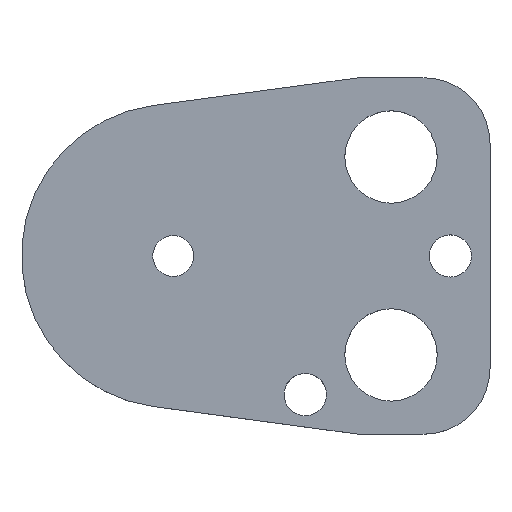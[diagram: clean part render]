
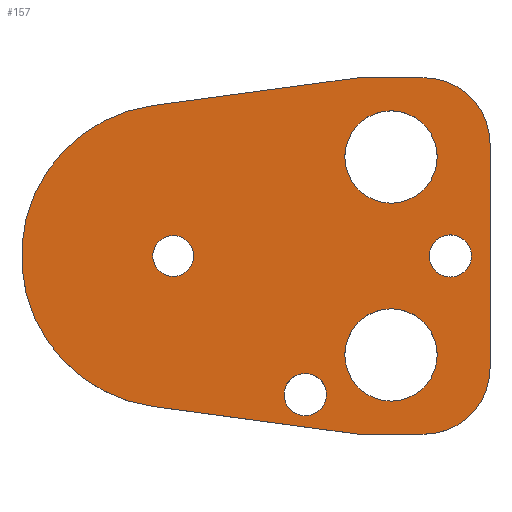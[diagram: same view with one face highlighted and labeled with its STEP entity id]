
A CAD part, top view. The second image highlights one B-rep face of the part: STEP entity #157.
In plain terms, the highlighted planar face has unit normal (0, 0, 1).
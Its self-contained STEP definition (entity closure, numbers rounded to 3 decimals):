
#103=FACE_BOUND('',#207,.T.);
#104=FACE_BOUND('',#208,.T.);
#105=FACE_BOUND('',#209,.T.);
#106=FACE_BOUND('',#210,.T.);
#107=FACE_BOUND('',#211,.T.);
#108=FACE_BOUND('',#212,.T.);
#122=CIRCLE('',#480,10.);
#124=CIRCLE('',#484,10.);
#127=CIRCLE('',#490,23.);
#138=CIRCLE('',#503,3.2);
#139=CIRCLE('',#504,3.2);
#140=CIRCLE('',#505,7.);
#141=CIRCLE('',#506,7.);
#142=CIRCLE('',#507,7.);
#143=CIRCLE('',#508,7.);
#144=CIRCLE('',#509,3.2);
#145=CIRCLE('',#510,3.2);
#146=CIRCLE('',#511,3.1);
#147=CIRCLE('',#512,3.1);
#157=ADVANCED_FACE('',(#103,#104,#105,#106,#107,#108),#174,.T.);
#174=PLANE('',#513);
#207=EDGE_LOOP('',(#273,#274,#275,#276,#277,#278,#279,#280));
#208=EDGE_LOOP('',(#281,#282));
#209=EDGE_LOOP('',(#283,#284));
#210=EDGE_LOOP('',(#285,#286));
#211=EDGE_LOOP('',(#287,#288));
#212=EDGE_LOOP('',(#289,#290));
#273=ORIENTED_EDGE('',*,*,#368,.T.);
#274=ORIENTED_EDGE('',*,*,#372,.T.);
#275=ORIENTED_EDGE('',*,*,#375,.T.);
#276=ORIENTED_EDGE('',*,*,#378,.T.);
#277=ORIENTED_EDGE('',*,*,#381,.T.);
#278=ORIENTED_EDGE('',*,*,#384,.T.);
#279=ORIENTED_EDGE('',*,*,#387,.T.);
#280=ORIENTED_EDGE('',*,*,#390,.T.);
#281=ORIENTED_EDGE('',*,*,#401,.T.);
#282=ORIENTED_EDGE('',*,*,#402,.T.);
#283=ORIENTED_EDGE('',*,*,#403,.T.);
#284=ORIENTED_EDGE('',*,*,#404,.T.);
#285=ORIENTED_EDGE('',*,*,#405,.T.);
#286=ORIENTED_EDGE('',*,*,#406,.T.);
#287=ORIENTED_EDGE('',*,*,#407,.T.);
#288=ORIENTED_EDGE('',*,*,#408,.T.);
#289=ORIENTED_EDGE('',*,*,#409,.T.);
#290=ORIENTED_EDGE('',*,*,#410,.T.);
#332=VERTEX_POINT('',#649);
#333=VERTEX_POINT('',#651);
#336=VERTEX_POINT('',#658);
#338=VERTEX_POINT('',#664);
#340=VERTEX_POINT('',#670);
#342=VERTEX_POINT('',#676);
#344=VERTEX_POINT('',#682);
#346=VERTEX_POINT('',#688);
#357=VERTEX_POINT('',#717);
#358=VERTEX_POINT('',#718);
#359=VERTEX_POINT('',#721);
#360=VERTEX_POINT('',#722);
#361=VERTEX_POINT('',#725);
#362=VERTEX_POINT('',#726);
#363=VERTEX_POINT('',#729);
#364=VERTEX_POINT('',#730);
#365=VERTEX_POINT('',#733);
#366=VERTEX_POINT('',#734);
#368=EDGE_CURVE('',#333,#332,#422,.T.);
#372=EDGE_CURVE('',#332,#336,#426,.T.);
#375=EDGE_CURVE('',#336,#338,#122,.T.);
#378=EDGE_CURVE('',#338,#340,#430,.T.);
#381=EDGE_CURVE('',#340,#342,#124,.T.);
#384=EDGE_CURVE('',#342,#344,#434,.T.);
#387=EDGE_CURVE('',#344,#346,#437,.T.);
#390=EDGE_CURVE('',#346,#333,#127,.T.);
#401=EDGE_CURVE('',#357,#358,#138,.T.);
#402=EDGE_CURVE('',#358,#357,#139,.T.);
#403=EDGE_CURVE('',#359,#360,#140,.T.);
#404=EDGE_CURVE('',#360,#359,#141,.T.);
#405=EDGE_CURVE('',#361,#362,#142,.T.);
#406=EDGE_CURVE('',#362,#361,#143,.T.);
#407=EDGE_CURVE('',#363,#364,#144,.T.);
#408=EDGE_CURVE('',#364,#363,#145,.T.);
#409=EDGE_CURVE('',#365,#366,#146,.T.);
#410=EDGE_CURVE('',#366,#365,#147,.T.);
#422=LINE('',#650,#450);
#426=LINE('',#659,#454);
#430=LINE('',#671,#458);
#434=LINE('',#683,#462);
#437=LINE('',#689,#465);
#450=VECTOR('',#527,1.);
#454=VECTOR('',#533,1.);
#458=VECTOR('',#545,1.);
#462=VECTOR('',#557,1.);
#465=VECTOR('',#562,1.);
#480=AXIS2_PLACEMENT_3D('',#665,#538,#539);
#484=AXIS2_PLACEMENT_3D('',#677,#550,#551);
#490=AXIS2_PLACEMENT_3D('',#693,#568,#569);
#503=AXIS2_PLACEMENT_3D('',#716,#594,#595);
#504=AXIS2_PLACEMENT_3D('',#719,#596,#597);
#505=AXIS2_PLACEMENT_3D('',#720,#598,#599);
#506=AXIS2_PLACEMENT_3D('',#723,#600,#601);
#507=AXIS2_PLACEMENT_3D('',#724,#602,#603);
#508=AXIS2_PLACEMENT_3D('',#727,#604,#605);
#509=AXIS2_PLACEMENT_3D('',#728,#606,#607);
#510=AXIS2_PLACEMENT_3D('',#731,#608,#609);
#511=AXIS2_PLACEMENT_3D('',#732,#610,#611);
#512=AXIS2_PLACEMENT_3D('',#735,#612,#613);
#513=AXIS2_PLACEMENT_3D('',#736,#614,#615);
#527=DIRECTION('',(0.991,-0.134,0.));
#533=DIRECTION('',(1.,0.,0.));
#538=DIRECTION('',(0.,0.,1.));
#539=DIRECTION('',(-0.707,0.707,0.));
#545=DIRECTION('',(0.,1.,0.));
#550=DIRECTION('',(0.,0.,1.));
#551=DIRECTION('',(-0.707,-0.707,0.));
#557=DIRECTION('',(-1.,0.,0.));
#562=DIRECTION('',(-0.991,-0.134,0.));
#568=DIRECTION('',(0.,0.,1.));
#569=DIRECTION('',(1.,0.,0.));
#594=DIRECTION('',(0.,0.,-1.));
#595=DIRECTION('',(-1.,0.,0.));
#596=DIRECTION('',(0.,0.,-1.));
#597=DIRECTION('',(1.,0.,0.));
#598=DIRECTION('',(0.,0.,-1.));
#599=DIRECTION('',(-1.,0.,0.));
#600=DIRECTION('',(0.,0.,-1.));
#601=DIRECTION('',(1.,0.,0.));
#602=DIRECTION('',(0.,0.,-1.));
#603=DIRECTION('',(-1.,0.,0.));
#604=DIRECTION('',(0.,0.,-1.));
#605=DIRECTION('',(1.,0.,0.));
#606=DIRECTION('',(0.,0.,-1.));
#607=DIRECTION('',(-1.,0.,0.));
#608=DIRECTION('',(0.,0.,-1.));
#609=DIRECTION('',(1.,0.,0.));
#610=DIRECTION('',(0.,0.,-1.));
#611=DIRECTION('',(-1.,0.,0.));
#612=DIRECTION('',(0.,0.,-1.));
#613=DIRECTION('',(1.,0.,0.));
#614=DIRECTION('',(0.,0.,1.));
#615=DIRECTION('',(0.991,-0.134,0.));
#649=CARTESIAN_POINT('',(28.,-27.,5.));
#650=CARTESIAN_POINT('',(28.,-27.,5.));
#651=CARTESIAN_POINT('',(-3.085,-22.792,5.));
#658=CARTESIAN_POINT('',(38.,-27.,5.));
#659=CARTESIAN_POINT('',(28.,-27.,5.));
#664=CARTESIAN_POINT('',(48.,-17.,5.));
#665=CARTESIAN_POINT('',(38.,-17.,5.));
#670=CARTESIAN_POINT('',(48.,17.,5.));
#671=CARTESIAN_POINT('',(48.,17.,5.));
#676=CARTESIAN_POINT('',(38.,27.,5.));
#677=CARTESIAN_POINT('',(38.,17.,5.));
#682=CARTESIAN_POINT('',(28.,27.,5.));
#683=CARTESIAN_POINT('',(28.,27.,5.));
#688=CARTESIAN_POINT('',(-3.085,22.792,5.));
#689=CARTESIAN_POINT('',(28.,27.,5.));
#693=CARTESIAN_POINT('',(0.,0.,5.));
#716=CARTESIAN_POINT('',(42.,0.,5.));
#717=CARTESIAN_POINT('',(42.,3.2,5.));
#718=CARTESIAN_POINT('',(42.,-3.2,5.));
#719=CARTESIAN_POINT('',(42.,0.,5.));
#720=CARTESIAN_POINT('',(33.,15.,5.));
#721=CARTESIAN_POINT('',(33.,22.,5.));
#722=CARTESIAN_POINT('',(33.,8.,5.));
#723=CARTESIAN_POINT('',(33.,15.,5.));
#724=CARTESIAN_POINT('',(33.,-15.,5.));
#725=CARTESIAN_POINT('',(33.,-8.,5.));
#726=CARTESIAN_POINT('',(33.,-22.,5.));
#727=CARTESIAN_POINT('',(33.,-15.,5.));
#728=CARTESIAN_POINT('',(20.,-21.,5.));
#729=CARTESIAN_POINT('',(20.,-17.8,5.));
#730=CARTESIAN_POINT('',(20.,-24.2,5.));
#731=CARTESIAN_POINT('',(20.,-21.,5.));
#732=CARTESIAN_POINT('',(0.,0.,5.));
#733=CARTESIAN_POINT('',(0.,3.1,5.));
#734=CARTESIAN_POINT('',(0.,-3.1,5.));
#735=CARTESIAN_POINT('',(0.,0.,5.));
#736=CARTESIAN_POINT('',(-3.085,-22.792,5.));
